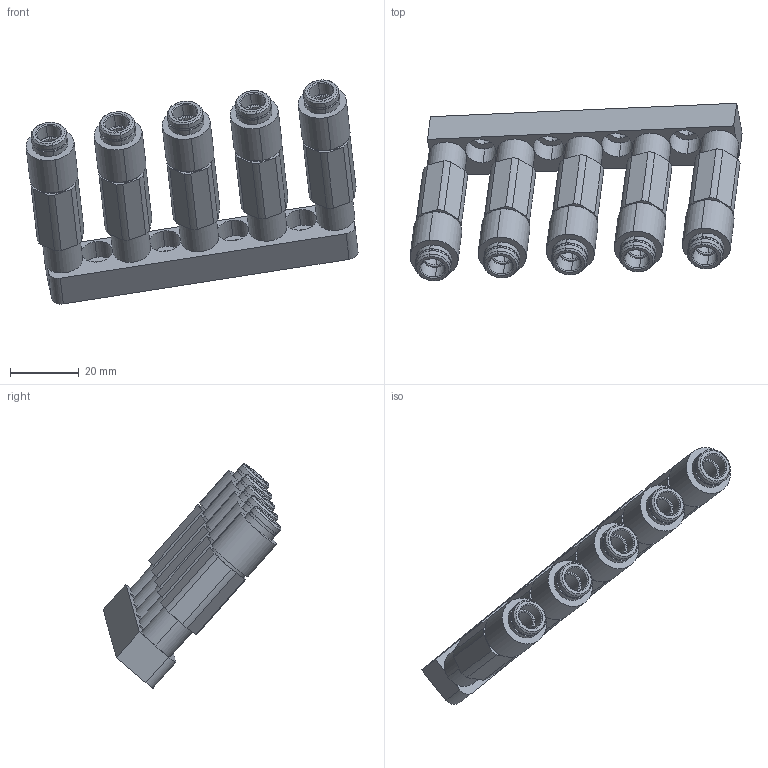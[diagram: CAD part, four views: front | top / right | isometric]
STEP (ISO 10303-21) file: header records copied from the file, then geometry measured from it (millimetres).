
FILE_DESCRIPTION (( 'STEP AP203' ), '1' );
FILE_NAME ('MS-10SF.STEP', '2024-10-11T07:22:26', ( '微软用户' ), ( '微软中国' ), 'SwSTEP 2.0', 'SolidWorks 2018', '' );
FILE_SCHEMA (( 'CONFIG_CONTROL_DESIGN' ));
Length unit declared in the file: millimetre
Products named in the file (4): MS-10SF; 123; 1234
Assembly tree (11 placements, depth 2):
  MS-10SF
    MS-10SF  x5
    123
    1234  x5
Bounding box: 96.32 x 51.54 x 65.03 mm (x, y, z)
Volume: 35676.2 mm3; surface area: 24118.1 mm2
Topology: 11 solids, 11 shells, 466 faces, 1023 edges, 658 vertices
Faces by surface type: cylinder 253, plane 145, cone 68
Entity records: 6055 total; most frequent: DIRECTION 1065, CARTESIAN_POINT 909, ORIENTED_EDGE 862, AXIS2_PLACEMENT_3D 438, EDGE_CURVE 431, VERTEX_POINT 282, CIRCLE 242, EDGE_LOOP 227
